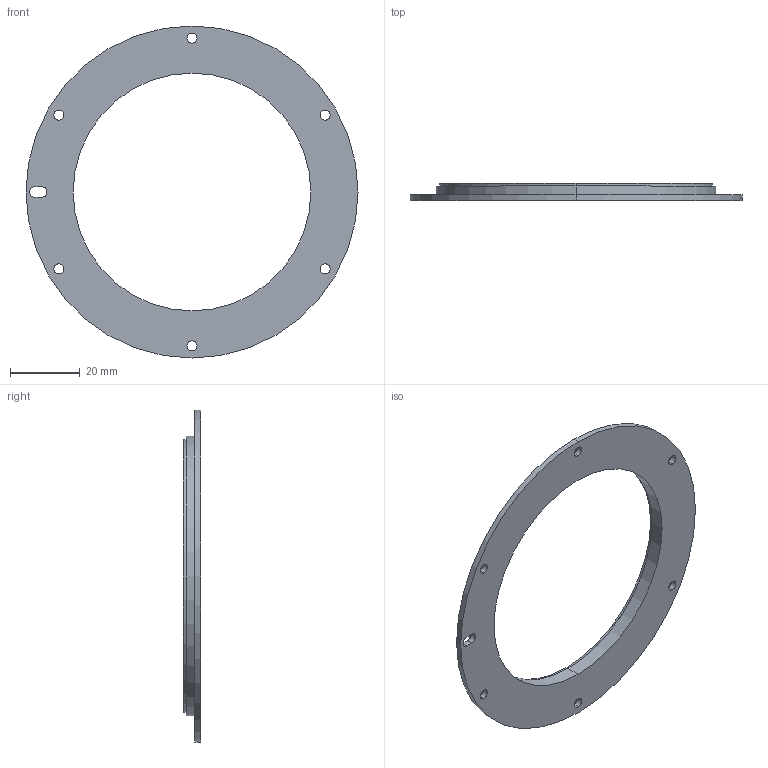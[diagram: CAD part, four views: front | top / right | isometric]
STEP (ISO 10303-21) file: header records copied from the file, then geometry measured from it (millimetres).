
FILE_DESCRIPTION (( 'STEP AP214' ), '1' );
FILE_NAME ('MRA080DF068DMH00.STEP', '2019-07-05T12:31:32', ( '' ), ( '' ), 'SwSTEP 2.0', 'SolidWorks 2016', '' );
FILE_SCHEMA (( 'AUTOMOTIVE_DESIGN' ));
Length unit declared in the file: millimetre
Products named in the file (3): Prirobnica D95_d68_4; ferrite_bruçen; MRA080DF068DMH00
Assembly tree (2 placements, depth 2):
  MRA080DF068DMH00
    Prirobnica D95_d68_4
    ferrite_bruçen
Bounding box: 94.97 x 4.9 x 94.97 mm (x, y, z)
Volume: 9940.9 mm3; surface area: 11451.6 mm2
Topology: 2 solids, 2 shells, 31 faces, 78 edges, 52 vertices
Faces by surface type: cylinder 24, plane 7
Entity records: 1106 total; most frequent: DIRECTION 198, CARTESIAN_POINT 166, ORIENTED_EDGE 156, AXIS2_PLACEMENT_3D 84, EDGE_CURVE 78, VERTEX_POINT 52, EDGE_LOOP 50, CIRCLE 48
